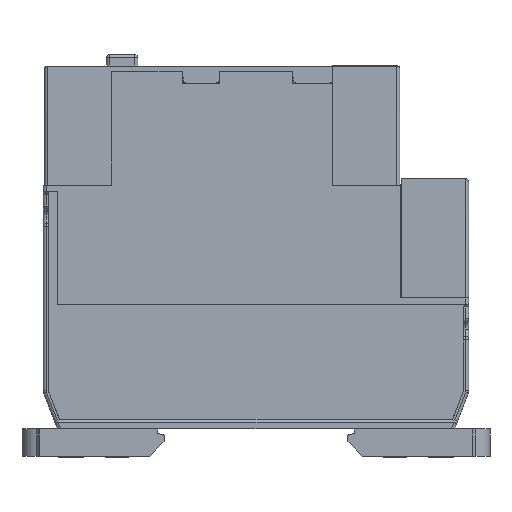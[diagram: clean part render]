
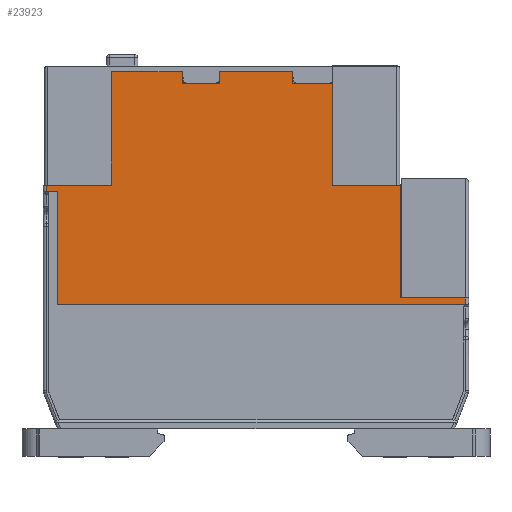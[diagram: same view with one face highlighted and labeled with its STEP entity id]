
A CAD part, left-side view. The second image highlights one B-rep face of the part: STEP entity #23923.
In plain terms, the highlighted planar face has unit normal (-1, 0, 0).
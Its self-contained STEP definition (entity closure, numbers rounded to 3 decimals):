
#273 = CARTESIAN_POINT ( 'NONE',  ( 0., 78.896, 47.83 ) ) ;
#568 = ORIENTED_EDGE ( 'NONE', *, *, #926, .T. ) ;
#630 = VECTOR ( 'NONE', #37830, 1000. ) ;
#633 = LINE ( 'NONE', #13204, #6292 ) ;
#793 = DIRECTION ( 'NONE',  ( 0., 0., -1. ) ) ;
#867 = ORIENTED_EDGE ( 'NONE', *, *, #38123, .F. ) ;
#926 = EDGE_CURVE ( 'NONE', #11264, #30005, #18947, .T. ) ;
#1143 = LINE ( 'NONE', #16199, #29527 ) ;
#1481 = VERTEX_POINT ( 'NONE', #33249 ) ;
#1483 = VERTEX_POINT ( 'NONE', #19707 ) ;
#1835 = CARTESIAN_POINT ( 'NONE',  ( 0., 78.896, 48.384 ) ) ;
#2598 = LINE ( 'NONE', #37027, #6381 ) ;
#2766 = EDGE_CURVE ( 'NONE', #24229, #16241, #2598, .T. ) ;
#2987 = LINE ( 'NONE', #18263, #39111 ) ;
#3683 = ORIENTED_EDGE ( 'NONE', *, *, #34860, .T. ) ;
#3989 = CARTESIAN_POINT ( 'NONE',  ( 0., 54.704, 68.544 ) ) ;
#3991 = CARTESIAN_POINT ( 'NONE',  ( 0., 54.704, 66.427 ) ) ;
#4337 = VECTOR ( 'NONE', #10438, 1000. ) ;
#4347 = VERTEX_POINT ( 'NONE', #1835 ) ;
#5183 = LINE ( 'NONE', #32795, #40429 ) ;
#5210 = VECTOR ( 'NONE', #32358, 1000. ) ;
#5362 = ORIENTED_EDGE ( 'NONE', *, *, #29993, .T. ) ;
#6252 = CARTESIAN_POINT ( 'NONE',  ( 0., 41.6, 66.427 ) ) ;
#6292 = VECTOR ( 'NONE', #23157, 1000. ) ;
#6381 = VECTOR ( 'NONE', #30688, 1000. ) ;
#6383 = VERTEX_POINT ( 'NONE', #16799 ) ;
#6598 = DIRECTION ( 'NONE',  ( 0., 0., 1. ) ) ;
#7223 = EDGE_CURVE ( 'NONE', #36312, #12789, #17445, .T. ) ;
#7597 = LINE ( 'NONE', #10245, #4337 ) ;
#7661 = LINE ( 'NONE', #13976, #24483 ) ;
#8388 = CARTESIAN_POINT ( 'NONE',  ( 0., 41.6, 66.427 ) ) ;
#9320 = VERTEX_POINT ( 'NONE', #19878 ) ;
#10245 = CARTESIAN_POINT ( 'NONE',  ( 0., 41.6, 68.544 ) ) ;
#10350 = VECTOR ( 'NONE', #6598, 1000. ) ;
#10438 = DIRECTION ( 'NONE',  ( 0., 1., 0. ) ) ;
#10717 = CARTESIAN_POINT ( 'NONE',  ( 0., 67.228, 48.384 ) ) ;
#10719 = CARTESIAN_POINT ( 'NONE',  ( 0., 41.6, 27.115 ) ) ;
#11264 = VERTEX_POINT ( 'NONE', #27648 ) ;
#11435 = ORIENTED_EDGE ( 'NONE', *, *, #33431, .T. ) ;
#11572 = DIRECTION ( 'NONE',  ( 0., 1., 0. ) ) ;
#11890 = DIRECTION ( 'NONE',  ( -1., 0., 0. ) ) ;
#12078 = CARTESIAN_POINT ( 'NONE',  ( 0., 15.896, 28.325 ) ) ;
#12126 = VECTOR ( 'NONE', #23530, 1000. ) ;
#12134 = ORIENTED_EDGE ( 'NONE', *, *, #13535, .T. ) ;
#12381 = EDGE_CURVE ( 'NONE', #30005, #24229, #32345, .T. ) ;
#12526 = CARTESIAN_POINT ( 'NONE',  ( 0., 15.896, 48.384 ) ) ;
#12545 = CARTESIAN_POINT ( 'NONE',  ( 0., 48.102, 47.83 ) ) ;
#12789 = VERTEX_POINT ( 'NONE', #31036 ) ;
#12844 = DIRECTION ( 'NONE',  ( 0., 0., -1. ) ) ;
#13204 = CARTESIAN_POINT ( 'NONE',  ( 0., 15.896, 47.83 ) ) ;
#13535 = EDGE_CURVE ( 'NONE', #20536, #17566, #5183, .T. ) ;
#13696 = DIRECTION ( 'NONE',  ( 0., 0., 1. ) ) ;
#13976 = CARTESIAN_POINT ( 'NONE',  ( 0., 67.304, 47.83 ) ) ;
#14291 = EDGE_CURVE ( 'NONE', #29949, #20536, #633, .T. ) ;
#15359 = ORIENTED_EDGE ( 'NONE', *, *, #12381, .T. ) ;
#15681 = CARTESIAN_POINT ( 'NONE',  ( 0., 4.304, 47.83 ) ) ;
#16016 = EDGE_CURVE ( 'NONE', #17566, #36312, #1143, .T. ) ;
#16064 = CARTESIAN_POINT ( 'NONE',  ( 0., 35.098, 47.83 ) ) ;
#16199 = CARTESIAN_POINT ( 'NONE',  ( 0., 27.992, 47.83 ) ) ;
#16241 = VERTEX_POINT ( 'NONE', #3989 ) ;
#16711 = EDGE_CURVE ( 'NONE', #39592, #11264, #7597, .T. ) ;
#16799 = CARTESIAN_POINT ( 'NONE',  ( 0., 76.88, 47.174 ) ) ;
#16881 = LINE ( 'NONE', #10717, #12126 ) ;
#17050 = ORIENTED_EDGE ( 'NONE', *, *, #21959, .T. ) ;
#17215 = ORIENTED_EDGE ( 'NONE', *, *, #14291, .T. ) ;
#17395 = CARTESIAN_POINT ( 'NONE',  ( 0., 41.6, 68.544 ) ) ;
#17445 = LINE ( 'NONE', #8388, #37583 ) ;
#17566 = VERTEX_POINT ( 'NONE', #32563 ) ;
#18263 = CARTESIAN_POINT ( 'NONE',  ( 0., 41.6, 47.174 ) ) ;
#18947 = LINE ( 'NONE', #12545, #31164 ) ;
#19556 = ORIENTED_EDGE ( 'NONE', *, *, #22233, .T. ) ;
#19707 = CARTESIAN_POINT ( 'NONE',  ( 0., 4.304, 28.325 ) ) ;
#19833 = VECTOR ( 'NONE', #37314, 1000. ) ;
#19878 = CARTESIAN_POINT ( 'NONE',  ( 0., 67.304, 68.544 ) ) ;
#20204 = DIRECTION ( 'NONE',  ( 0., 0., -1. ) ) ;
#20536 = VERTEX_POINT ( 'NONE', #12526 ) ;
#21403 = VECTOR ( 'NONE', #12844, 1000. ) ;
#21959 = EDGE_CURVE ( 'NONE', #4347, #37921, #28543, .T. ) ;
#22032 = PLANE ( 'NONE',  #35622 ) ;
#22233 = EDGE_CURVE ( 'NONE', #37169, #1483, #31392, .T. ) ;
#22702 = LINE ( 'NONE', #16064, #10350 ) ;
#23157 = DIRECTION ( 'NONE',  ( 0., 0., 1. ) ) ;
#23530 = DIRECTION ( 'NONE',  ( 0., -1., 0. ) ) ;
#23923 = ADVANCED_FACE ( 'NONE', ( #27401 ), #22032, .T. ) ;
#24229 = VERTEX_POINT ( 'NONE', #3991 ) ;
#24483 = VECTOR ( 'NONE', #20204, 1000. ) ;
#24911 = DIRECTION ( 'NONE',  ( 0., -1., 0. ) ) ;
#25366 = CARTESIAN_POINT ( 'NONE',  ( 0., 10.856, 28.325 ) ) ;
#25398 = VECTOR ( 'NONE', #38306, 1000. ) ;
#25651 = ORIENTED_EDGE ( 'NONE', *, *, #26331, .F. ) ;
#25696 = EDGE_LOOP ( 'NONE', ( #33777, #19556, #25651, #17215, #12134, #26801, #28960, #11435, #26531, #568, #15359, #35227, #39620, #34205, #867, #17050, #5362, #3683 ) ) ;
#25843 = CARTESIAN_POINT ( 'NONE',  ( 0., 4.304, 27.115 ) ) ;
#25996 = CARTESIAN_POINT ( 'NONE',  ( 0., 27.992, 66.427 ) ) ;
#26331 = EDGE_CURVE ( 'NONE', #29949, #1483, #28407, .T. ) ;
#26401 = VERTEX_POINT ( 'NONE', #38836 ) ;
#26531 = ORIENTED_EDGE ( 'NONE', *, *, #16711, .T. ) ;
#26801 = ORIENTED_EDGE ( 'NONE', *, *, #16016, .T. ) ;
#27205 = EDGE_CURVE ( 'NONE', #9320, #1481, #7661, .T. ) ;
#27277 = CARTESIAN_POINT ( 'NONE',  ( 0., 35.098, 68.544 ) ) ;
#27401 = FACE_OUTER_BOUND ( 'NONE', #25696, .T. ) ;
#27648 = CARTESIAN_POINT ( 'NONE',  ( 0., 48.102, 68.544 ) ) ;
#28311 = VECTOR ( 'NONE', #38340, 1000. ) ;
#28407 = LINE ( 'NONE', #25366, #630 ) ;
#28543 = LINE ( 'NONE', #273, #21403 ) ;
#28960 = ORIENTED_EDGE ( 'NONE', *, *, #7223, .T. ) ;
#29473 = LINE ( 'NONE', #10719, #5210 ) ;
#29527 = VECTOR ( 'NONE', #13696, 1000. ) ;
#29949 = VERTEX_POINT ( 'NONE', #12078 ) ;
#29993 = EDGE_CURVE ( 'NONE', #37921, #6383, #2987, .T. ) ;
#30005 = VERTEX_POINT ( 'NONE', #37182 ) ;
#30688 = DIRECTION ( 'NONE',  ( 0., 0., 1. ) ) ;
#31036 = CARTESIAN_POINT ( 'NONE',  ( 0., 35.098, 66.427 ) ) ;
#31164 = VECTOR ( 'NONE', #793, 1000. ) ;
#31392 = LINE ( 'NONE', #15681, #25398 ) ;
#32180 = EDGE_CURVE ( 'NONE', #16241, #9320, #35500, .T. ) ;
#32345 = LINE ( 'NONE', #6252, #19833 ) ;
#32358 = DIRECTION ( 'NONE',  ( 0., -1., 0. ) ) ;
#32563 = CARTESIAN_POINT ( 'NONE',  ( 0., 27.992, 48.384 ) ) ;
#32795 = CARTESIAN_POINT ( 'NONE',  ( 0., 41.6, 48.384 ) ) ;
#33249 = CARTESIAN_POINT ( 'NONE',  ( 0., 67.304, 48.384 ) ) ;
#33431 = EDGE_CURVE ( 'NONE', #12789, #39592, #22702, .T. ) ;
#33777 = ORIENTED_EDGE ( 'NONE', *, *, #34337, .T. ) ;
#34205 = ORIENTED_EDGE ( 'NONE', *, *, #27205, .T. ) ;
#34337 = EDGE_CURVE ( 'NONE', #26401, #37169, #29473, .T. ) ;
#34779 = VECTOR ( 'NONE', #38985, 1000. ) ;
#34860 = EDGE_CURVE ( 'NONE', #6383, #26401, #35479, .T. ) ;
#35227 = ORIENTED_EDGE ( 'NONE', *, *, #2766, .T. ) ;
#35479 = LINE ( 'NONE', #35910, #28311 ) ;
#35500 = LINE ( 'NONE', #17395, #34779 ) ;
#35622 = AXIS2_PLACEMENT_3D ( 'NONE', #40533, #11890, #37202 ) ;
#35910 = CARTESIAN_POINT ( 'NONE',  ( 0., 76.88, 47.83 ) ) ;
#36312 = VERTEX_POINT ( 'NONE', #25996 ) ;
#37027 = CARTESIAN_POINT ( 'NONE',  ( 0., 54.704, 47.83 ) ) ;
#37169 = VERTEX_POINT ( 'NONE', #25843 ) ;
#37182 = CARTESIAN_POINT ( 'NONE',  ( 0., 48.102, 66.427 ) ) ;
#37202 = DIRECTION ( 'NONE',  ( 0., -1., 0. ) ) ;
#37314 = DIRECTION ( 'NONE',  ( 0., 1., 0. ) ) ;
#37583 = VECTOR ( 'NONE', #39044, 1000. ) ;
#37830 = DIRECTION ( 'NONE',  ( 0., -1., 0. ) ) ;
#37921 = VERTEX_POINT ( 'NONE', #39994 ) ;
#38123 = EDGE_CURVE ( 'NONE', #4347, #1481, #16881, .T. ) ;
#38306 = DIRECTION ( 'NONE',  ( 0., 0., 1. ) ) ;
#38340 = DIRECTION ( 'NONE',  ( 0., 0., -1. ) ) ;
#38836 = CARTESIAN_POINT ( 'NONE',  ( 0., 76.88, 27.115 ) ) ;
#38985 = DIRECTION ( 'NONE',  ( 0., 1., 0. ) ) ;
#39044 = DIRECTION ( 'NONE',  ( 0., 1., 0. ) ) ;
#39111 = VECTOR ( 'NONE', #24911, 1000. ) ;
#39592 = VERTEX_POINT ( 'NONE', #27277 ) ;
#39620 = ORIENTED_EDGE ( 'NONE', *, *, #32180, .T. ) ;
#39994 = CARTESIAN_POINT ( 'NONE',  ( 0., 78.896, 47.174 ) ) ;
#40429 = VECTOR ( 'NONE', #11572, 1000. ) ;
#40533 = CARTESIAN_POINT ( 'NONE',  ( 0., 78.896, 27.115 ) ) ;
